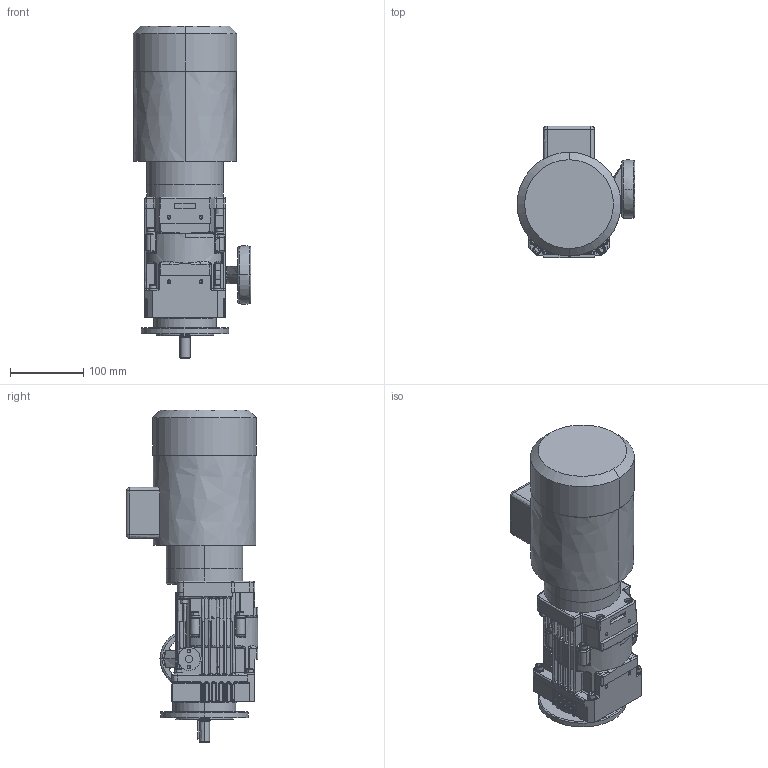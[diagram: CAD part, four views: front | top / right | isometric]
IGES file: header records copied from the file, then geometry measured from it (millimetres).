
Start section: Elysium IGES Interface
Global section: file name: G:\000_Arbeit\000_CAD\140_R4_Serie\01_ET_ZZ_US_SL\140_001_R4_Grundeinheit\R41_B5_HV_Motor_2D_3D.igs; native system: SolidDesigner 16.00A  16-Aug-2008; preprocessor: CoCreate IGES_3D V2.2; author: Unknown; organization: Unknown; date: 20081202.125052; units: millimetre
Bounding box: 161.01 x 180 x 454 mm (x, y, z)
Volume: 4992757.7 mm3; surface area: 364750.9 mm2
Topology: 2 solids, 3 shells, 1646 faces, 4013 edges, 2433 vertices
Faces by surface type: bspline 1646
